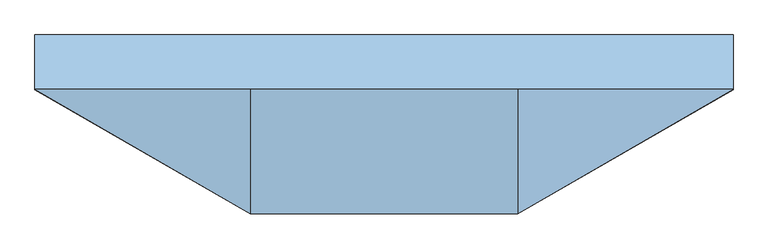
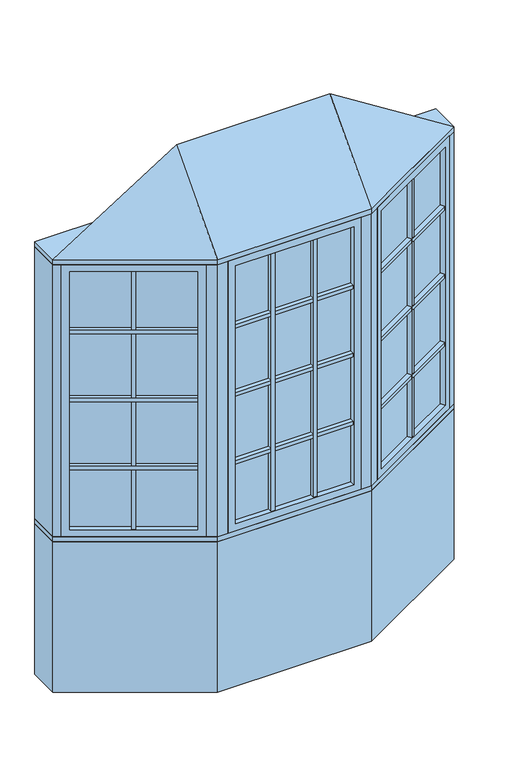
"""IFC4 building model written with IfcOpenShell, lengths in millimetres: window geometry, Pollard_Windows_Tudor Casement Bows and Bays : AML-BAY 30 AFR0614-08-600_GC."""

from ifc_helpers import new_model, si_unit, frame, origin, origin_with_axes, place, context, project, spatial, polyline, outline, extrude, faceted_brep, source, transform, mapped, element, save


def window_1a3f96cc(model_context):
    return source(origin(), model_context, "Body", "SolidModel", [
        extrude(outline(polyline([(446.881999, -376.6297343), (435.881999, -357.5771754), (902.1135794, -88.3982469), (913.1135794, -107.4508058), (446.881999, -376.6297343)])), frame((0.0, 0.0, 1490.998), z_axis=(0.0, 0.0, 1.0), x_axis=(1.0, 0.0, 0.0)), (0.0, 0.0, 1.0), 18.0),
        extrude(outline(polyline([(433.341999, -353.1777664), (422.341999, -334.1252075), (888.5735794, -64.946279), (899.5735794, -83.9988379), (433.341999, -353.1777664)])), frame((0.0, 0.0, 1490.998), z_axis=(0.0, 0.0, 1.0), x_axis=(1.0, 0.0, 0.0)), (0.0, 0.0, 1.0), 18.0),
        extrude(outline(polyline([(446.881999, -376.6297343), (435.881999, -357.5771754), (902.1135794, -88.3982469), (913.1135794, -107.4508058), (446.881999, -376.6297343)])), frame((0.0, 0.0, 1140.998), z_axis=(0.0, 0.0, 1.0), x_axis=(1.0, 0.0, 0.0)), (0.0, 0.0, 1.0), 18.0),
        extrude(outline(polyline([(433.341999, -353.1777664), (422.341999, -334.1252075), (888.5735794, -64.946279), (899.5735794, -83.9988379), (433.341999, -353.1777664)])), frame((0.0, 0.0, 1140.998), z_axis=(0.0, 0.0, 1.0), x_axis=(1.0, 0.0, 0.0)), (0.0, 0.0, 1.0), 18.0),
        extrude(outline(polyline([(446.881999, -376.6297343), (435.881999, -357.5771754), (902.1135794, -88.3982469), (913.1135794, -107.4508058), (446.881999, -376.6297343)])), frame((0.0, 0.0, 1490.998), z_axis=(0.0, 0.0, 1.0), x_axis=(1.0, 0.0, 0.0)), (0.0, 0.0, 1.0), 18.0),
        extrude(outline(polyline([(433.341999, -353.1777664), (422.341999, -334.1252075), (888.5735794, -64.946279), (899.5735794, -83.9988379), (433.341999, -353.1777664)])), frame((0.0, 0.0, 1490.998), z_axis=(0.0, 0.0, 1.0), x_axis=(1.0, 0.0, 0.0)), (0.0, 0.0, 1.0), 18.0),
        extrude(outline(polyline([(446.881999, -376.6297343), (435.881999, -357.5771754), (902.1135794, -88.3982469), (913.1135794, -107.4508058), (446.881999, -376.6297343)])), frame((0.0, 0.0, 1490.998), z_axis=(0.0, 0.0, 1.0), x_axis=(1.0, 0.0, 0.0)), (0.0, 0.0, 1.0), 18.0),
        extrude(outline(polyline([(433.341999, -353.1777664), (422.341999, -334.1252075), (888.5735794, -64.946279), (899.5735794, -83.9988379), (433.341999, -353.1777664)])), frame((0.0, 0.0, 1490.998), z_axis=(0.0, 0.0, 1.0), x_axis=(1.0, 0.0, 0.0)), (0.0, 0.0, 1.0), 18.0),
        extrude(outline(polyline([(446.881999, -376.6297343), (435.881999, -357.5771754), (902.1135794, -88.3982469), (913.1135794, -107.4508058), (446.881999, -376.6297343)])), frame((0.0, 0.0, 1840.998), z_axis=(0.0, 0.0, 1.0), x_axis=(1.0, 0.0, 0.0)), (0.0, 0.0, 1.0), 18.0),
        extrude(outline(polyline([(433.341999, -353.1777664), (422.341999, -334.1252075), (888.5735794, -64.946279), (899.5735794, -83.9988379), (433.341999, -353.1777664)])), frame((0.0, 0.0, 1840.998), z_axis=(0.0, 0.0, 1.0), x_axis=(1.0, 0.0, 0.0)), (0.0, 0.0, 1.0), 18.0),
        extrude(outline(polyline([(676.7920178, -218.4877112), (687.7920178, -237.5402701), (672.2035606, -246.5402701), (661.2035606, -227.4877112), (676.7920178, -218.4877112)])), frame((0.0, 0.0, 835.8628), z_axis=(0.0, 0.0, 1.0), x_axis=(1.0, 0.0, 0.0)), (0.0, 0.0, 1.0), 1328.2704),
        extrude(outline(polyline([(674.2520178, -214.0883021), (658.6635606, -223.0883021), (647.6635606, -204.0357432), (663.2520178, -195.0357432), (674.2520178, -214.0883021)])), frame((0.0, 0.0, 835.8628), z_axis=(0.0, 0.0, 1.0), x_axis=(1.0, 0.0, 0.0)), (0.0, 0.0, 1.0), 1328.2704),
        extrude(outline(polyline([(913.112102, -82.0482469), (424.8834764, -363.9271754), (422.3434764, -359.5277664), (910.572102, -77.6488379), (913.112102, -82.0482469)])), frame((0.0, 0.0, 823.1628), z_axis=(0.0, 0.0, 1.0), x_axis=(1.0, 0.0, 0.0)), (0.0, 0.0, 1.0), 1353.6704),
        faceted_brep([(902.1135794, -88.3982469, 835.8628), (914.8135794, -110.3952922, 835.8628), (914.8135794, -110.3952922, 2164.1332), (902.1135794, -88.3982469, 2164.1332), (910.572102, -77.6488379, 823.1628), (913.112102, -82.0482469, 823.1628), (913.112102, -82.0482469, 2176.8332), (910.572102, -77.6488379, 2176.8332), (886.8735794, -62.0017926, 835.8628), (899.5735794, -83.9988379, 835.8628), (899.5735794, -83.9988379, 2164.1332), (886.8735794, -62.0017926, 2164.1332), (945.8734073, -92.4628922, 799.998), (917.9334073, -44.0693926, 799.998), (917.9334073, -44.0693926, 2199.998), (945.8734073, -92.4628922, 2199.998), (448.581999, -379.5742207, 2164.1332), (435.881999, -357.5771754, 2164.1332), (424.8834764, -363.9271754, 2176.8332), (422.3434764, -359.5277664, 2176.8332), (433.341999, -353.1777664, 2164.1332), (420.641999, -331.1807211, 2164.1332), (389.5821711, -349.1131211, 2199.998), (417.5221711, -397.5066207, 2199.998), (448.581999, -379.5742207, 835.8628), (435.881999, -357.5771754, 835.8628), (424.8834764, -363.9271754, 823.1628), (422.3434764, -359.5277664, 823.1628), (433.341999, -353.1777664, 835.8628), (420.641999, -331.1807211, 835.8628), (389.5821711, -349.1131211, 799.998), (417.5221711, -397.5066207, 799.998)], [[[0, 1, 2, 3]], [[4, 5, 6, 7]], [[8, 9, 10, 11]], [[12, 13, 14, 15]], [[3, 2, 16, 17]], [[7, 6, 18, 19]], [[11, 10, 20, 21]], [[15, 14, 22, 23]], [[17, 16, 24, 25]], [[19, 18, 26, 27]], [[21, 20, 28, 29]], [[23, 22, 30, 31]], [[25, 24, 1, 0]], [[5, 26, 18, 6], [3, 17, 25, 0]], [[27, 26, 5, 4]], [[7, 19, 27, 4], [9, 28, 20, 10]], [[29, 28, 9, 8]], [[13, 30, 22, 14], [11, 21, 29, 8]], [[31, 30, 13, 12]], [[15, 23, 31, 12], [1, 24, 16, 2]]]),
        extrude(outline(polyline([(112.352167, -397.1066207), (112.352167, -419.1066207), (94.352167, -419.1066207), (94.352167, -397.1066207), (112.352167, -397.1066207)])), frame((0.0, 0.0, 835.8628), z_axis=(0.0, 0.0, 1.0), x_axis=(1.0, 0.0, 0.0)), (0.0, 0.0, 1.0), 1328.2704),
        extrude(outline(polyline([(112.352167, -392.0266207), (94.352167, -392.0266207), (94.352167, -370.0266207), (112.352167, -370.0266207), (112.352167, -392.0266207)])), frame((0.0, 0.0, 835.8628), z_axis=(0.0, 0.0, 1.0), x_axis=(1.0, 0.0, 0.0)), (0.0, 0.0, 1.0), 1328.2704),
        extrude(outline(polyline([(-94.352167, -397.1066207), (-94.352167, -419.1066207), (-112.352167, -419.1066207), (-112.352167, -397.1066207), (-94.352167, -397.1066207)])), frame((0.0, 0.0, 835.8628), z_axis=(0.0, 0.0, 1.0), x_axis=(1.0, 0.0, 0.0)), (0.0, 0.0, 1.0), 1328.2704),
        extrude(outline(polyline([(-94.352167, -392.0266207), (-112.352167, -392.0266207), (-112.352167, -370.0266207), (-94.352167, -370.0266207), (-94.352167, -392.0266207)])), frame((0.0, 0.0, 835.8628), z_axis=(0.0, 0.0, 1.0), x_axis=(1.0, 0.0, 0.0)), (0.0, 0.0, 1.0), 1328.2704),
        extrude(outline(polyline([(-288.3561009, -419.1066207), (-288.3561009, -397.1066207), (288.3561009, -397.1066207), (288.3561009, -419.1066207), (-288.3561009, -419.1066207)])), frame((0.0, 0.0, 1140.998), z_axis=(0.0, 0.0, 1.0), x_axis=(1.0, 0.0, 0.0)), (0.0, 0.0, 1.0), 18.0),
        extrude(outline(polyline([(-288.3561009, -392.0266207), (-288.3561009, -370.0266207), (288.3561009, -370.0266207), (288.3561009, -392.0266207), (-288.3561009, -392.0266207)])), frame((0.0, 0.0, 1140.998), z_axis=(0.0, 0.0, 1.0), x_axis=(1.0, 0.0, 0.0)), (0.0, 0.0, 1.0), 18.0),
        extrude(outline(polyline([(-288.3561009, -419.1066207), (-288.3561009, -397.1066207), (288.3561009, -397.1066207), (288.3561009, -419.1066207), (-288.3561009, -419.1066207)])), frame((0.0, 0.0, 1490.998), z_axis=(0.0, 0.0, 1.0), x_axis=(1.0, 0.0, 0.0)), (0.0, 0.0, 1.0), 18.0),
        extrude(outline(polyline([(-288.3561009, -392.0266207), (-288.3561009, -370.0266207), (288.3561009, -370.0266207), (288.3561009, -392.0266207), (-288.3561009, -392.0266207)])), frame((0.0, 0.0, 1490.998), z_axis=(0.0, 0.0, 1.0), x_axis=(1.0, 0.0, 0.0)), (0.0, 0.0, 1.0), 18.0),
        extrude(outline(polyline([(-288.3561009, -419.1066207), (-288.3561009, -397.1066207), (288.3561009, -397.1066207), (288.3561009, -419.1066207), (-288.3561009, -419.1066207)])), frame((0.0, 0.0, 1490.998), z_axis=(0.0, 0.0, 1.0), x_axis=(1.0, 0.0, 0.0)), (0.0, 0.0, 1.0), 18.0),
        extrude(outline(polyline([(-288.3561009, -392.0266207), (-288.3561009, -370.0266207), (288.3561009, -370.0266207), (288.3561009, -392.0266207), (-288.3561009, -392.0266207)])), frame((0.0, 0.0, 1490.998), z_axis=(0.0, 0.0, 1.0), x_axis=(1.0, 0.0, 0.0)), (0.0, 0.0, 1.0), 18.0),
        extrude(outline(polyline([(-288.3561009, -419.1066207), (-288.3561009, -397.1066207), (288.3561009, -397.1066207), (288.3561009, -419.1066207), (-288.3561009, -419.1066207)])), frame((0.0, 0.0, 1490.998), z_axis=(0.0, 0.0, 1.0), x_axis=(1.0, 0.0, 0.0)), (0.0, 0.0, 1.0), 18.0),
        extrude(outline(polyline([(-288.3561009, -392.0266207), (-288.3561009, -370.0266207), (288.3561009, -370.0266207), (288.3561009, -392.0266207), (-288.3561009, -392.0266207)])), frame((0.0, 0.0, 1490.998), z_axis=(0.0, 0.0, 1.0), x_axis=(1.0, 0.0, 0.0)), (0.0, 0.0, 1.0), 18.0),
        extrude(outline(polyline([(-913.1135794, -107.4508058), (-902.1135794, -88.3982469), (-435.881999, -357.5771754), (-446.881999, -376.6297343), (-913.1135794, -107.4508058)])), frame((0.0, 0.0, 1140.998), z_axis=(0.0, 0.0, 1.0), x_axis=(1.0, 0.0, 0.0)), (0.0, 0.0, 1.0), 18.0),
        extrude(outline(polyline([(-899.5735794, -83.9988379), (-888.5735794, -64.946279), (-422.341999, -334.1252075), (-433.341999, -353.1777664), (-899.5735794, -83.9988379)])), frame((0.0, 0.0, 1140.998), z_axis=(0.0, 0.0, 1.0), x_axis=(1.0, 0.0, 0.0)), (0.0, 0.0, 1.0), 18.0),
        extrude(outline(polyline([(-913.1135794, -107.4508058), (-902.1135794, -88.3982469), (-435.881999, -357.5771754), (-446.881999, -376.6297343), (-913.1135794, -107.4508058)])), frame((0.0, 0.0, 1490.998), z_axis=(0.0, 0.0, 1.0), x_axis=(1.0, 0.0, 0.0)), (0.0, 0.0, 1.0), 18.0),
        extrude(outline(polyline([(-899.5735794, -83.9988379), (-888.5735794, -64.946279), (-422.341999, -334.1252075), (-433.341999, -353.1777664), (-899.5735794, -83.9988379)])), frame((0.0, 0.0, 1490.998), z_axis=(0.0, 0.0, 1.0), x_axis=(1.0, 0.0, 0.0)), (0.0, 0.0, 1.0), 18.0),
        extrude(outline(polyline([(-913.1135794, -107.4508058), (-902.1135794, -88.3982469), (-435.881999, -357.5771754), (-446.881999, -376.6297343), (-913.1135794, -107.4508058)])), frame((0.0, 0.0, 1490.998), z_axis=(0.0, 0.0, 1.0), x_axis=(1.0, 0.0, 0.0)), (0.0, 0.0, 1.0), 18.0),
        extrude(outline(polyline([(-899.5735794, -83.9988379), (-888.5735794, -64.946279), (-422.341999, -334.1252075), (-433.341999, -353.1777664), (-899.5735794, -83.9988379)])), frame((0.0, 0.0, 1490.998), z_axis=(0.0, 0.0, 1.0), x_axis=(1.0, 0.0, 0.0)), (0.0, 0.0, 1.0), 18.0),
        extrude(outline(polyline([(-913.1135794, -107.4508058), (-902.1135794, -88.3982469), (-435.881999, -357.5771754), (-446.881999, -376.6297343), (-913.1135794, -107.4508058)])), frame((0.0, 0.0, 1490.998), z_axis=(0.0, 0.0, 1.0), x_axis=(1.0, 0.0, 0.0)), (0.0, 0.0, 1.0), 18.0),
        extrude(outline(polyline([(-899.5735794, -83.9988379), (-888.5735794, -64.946279), (-422.341999, -334.1252075), (-433.341999, -353.1777664), (-899.5735794, -83.9988379)])), frame((0.0, 0.0, 1490.998), z_axis=(0.0, 0.0, 1.0), x_axis=(1.0, 0.0, 0.0)), (0.0, 0.0, 1.0), 18.0),
        extrude(outline(polyline([(-913.1135794, -107.4508058), (-902.1135794, -88.3982469), (-435.881999, -357.5771754), (-446.881999, -376.6297343), (-913.1135794, -107.4508058)])), frame((0.0, 0.0, 1840.998), z_axis=(0.0, 0.0, 1.0), x_axis=(1.0, 0.0, 0.0)), (0.0, 0.0, 1.0), 18.0),
        extrude(outline(polyline([(-899.5735794, -83.9988379), (-888.5735794, -64.946279), (-422.341999, -334.1252075), (-433.341999, -353.1777664), (-899.5735794, -83.9988379)])), frame((0.0, 0.0, 1840.998), z_axis=(0.0, 0.0, 1.0), x_axis=(1.0, 0.0, 0.0)), (0.0, 0.0, 1.0), 18.0),
        extrude(outline(polyline([(-288.3561009, -419.1066207), (-288.3561009, -397.1066207), (288.3561009, -397.1066207), (288.3561009, -419.1066207), (-288.3561009, -419.1066207)])), frame((0.0, 0.0, 1840.998), z_axis=(0.0, 0.0, 1.0), x_axis=(1.0, 0.0, 0.0)), (0.0, 0.0, 1.0), 18.0),
        extrude(outline(polyline([(-288.3561009, -392.0266207), (-288.3561009, -370.0266207), (288.3561009, -370.0266207), (288.3561009, -392.0266207), (-288.3561009, -392.0266207)])), frame((0.0, 0.0, 1840.998), z_axis=(0.0, 0.0, 1.0), x_axis=(1.0, 0.0, 0.0)), (0.0, 0.0, 1.0), 18.0),
        extrude(outline(polyline([(-661.2035606, -227.4877112), (-672.2035606, -246.5402701), (-687.7920178, -237.5402701), (-676.7920178, -218.4877112), (-661.2035606, -227.4877112)])), frame((0.0, 0.0, 835.8628), z_axis=(0.0, 0.0, 1.0), x_axis=(1.0, 0.0, 0.0)), (0.0, 0.0, 1.0), 1328.2704),
        extrude(outline(polyline([(-658.6635606, -223.0883021), (-674.2520178, -214.0883021), (-663.2520178, -195.0357432), (-647.6635606, -204.0357432), (-658.6635606, -223.0883021)])), frame((0.0, 0.0, 835.8628), z_axis=(0.0, 0.0, 1.0), x_axis=(1.0, 0.0, 0.0)), (0.0, 0.0, 1.0), 1328.2704),
        extrude(outline(polyline([(-424.8834764, -363.9271754), (-913.112102, -82.0482469), (-910.572102, -77.6488379), (-422.3434764, -359.5277664), (-424.8834764, -363.9271754)])), frame((0.0, 0.0, 823.1628), z_axis=(0.0, 0.0, 1.0), x_axis=(1.0, 0.0, 0.0)), (0.0, 0.0, 1.0), 1353.6704),
        faceted_brep([(-433.341999, -353.1777664, 2164.1332), (-420.641999, -331.1807211, 2164.1332), (-420.641999, -331.1807211, 835.8628), (-433.341999, -353.1777664, 835.8628), (-424.8834764, -363.9271754, 2176.8332), (-422.3434764, -359.5277664, 2176.8332), (-422.3434764, -359.5277664, 823.1628), (-424.8834764, -363.9271754, 823.1628), (-448.581999, -379.5742207, 2164.1332), (-435.881999, -357.5771754, 2164.1332), (-435.881999, -357.5771754, 835.8628), (-448.581999, -379.5742207, 835.8628), (-389.5821711, -349.1131211, 2199.998), (-417.5221711, -397.5066207, 2199.998), (-417.5221711, -397.5066207, 799.998), (-389.5821711, -349.1131211, 799.998), (-886.8735794, -62.0017926, 835.8628), (-899.5735794, -83.9988379, 835.8628), (-910.572102, -77.6488379, 823.1628), (-913.112102, -82.0482469, 823.1628), (-902.1135794, -88.3982469, 835.8628), (-914.8135794, -110.3952922, 835.8628), (-945.8734073, -92.4628922, 799.998), (-917.9334073, -44.0693926, 799.998), (-886.8735794, -62.0017926, 2164.1332), (-899.5735794, -83.9988379, 2164.1332), (-910.572102, -77.6488379, 2176.8332), (-913.112102, -82.0482469, 2176.8332), (-902.1135794, -88.3982469, 2164.1332), (-914.8135794, -110.3952922, 2164.1332), (-945.8734073, -92.4628922, 2199.998), (-917.9334073, -44.0693926, 2199.998)], [[[0, 1, 2, 3]], [[4, 5, 6, 7]], [[8, 9, 10, 11]], [[12, 13, 14, 15]], [[3, 2, 16, 17]], [[7, 6, 18, 19]], [[11, 10, 20, 21]], [[15, 14, 22, 23]], [[17, 16, 24, 25]], [[19, 18, 26, 27]], [[21, 20, 28, 29]], [[23, 22, 30, 31]], [[15, 23, 31, 12], [1, 24, 16, 2]], [[25, 24, 1, 0]], [[5, 26, 18, 6], [3, 17, 25, 0]], [[27, 26, 5, 4]], [[7, 19, 27, 4], [9, 28, 20, 10]], [[29, 28, 9, 8]], [[13, 30, 22, 14], [11, 21, 29, 8]], [[31, 30, 13, 12]]]),
        extrude(outline(polyline([(301.0561009, -397.1066207), (-301.0561009, -397.1066207), (-301.0561009, -392.0266207), (301.0561009, -392.0266207), (301.0561009, -397.1066207)])), frame((0.0, 0.0, 823.1628), z_axis=(0.0, 0.0, 1.0), x_axis=(1.0, 0.0, 0.0)), (0.0, 0.0, 1.0), 1353.6704),
        faceted_brep([(288.3561009, -397.1066207, 835.8628), (288.3561009, -422.5066207, 835.8628), (288.3561009, -422.5066207, 2164.1332), (288.3561009, -397.1066207, 2164.1332), (301.0561009, -392.0266207, 823.1628), (301.0561009, -397.1066207, 823.1628), (301.0561009, -397.1066207, 2176.8332), (301.0561009, -392.0266207, 2176.8332), (288.3561009, -366.6266207, 835.8628), (288.3561009, -392.0266207, 835.8628), (288.3561009, -392.0266207, 2164.1332), (288.3561009, -366.6266207, 2164.1332), (324.2209009, -422.5066207, 799.998), (324.2209009, -366.6266207, 799.998), (324.2209009, -366.6266207, 2199.998), (324.2209009, -422.5066207, 2199.998), (-288.3561009, -422.5066207, 2164.1332), (-288.3561009, -397.1066207, 2164.1332), (-301.0561009, -397.1066207, 2176.8332), (-301.0561009, -392.0266207, 2176.8332), (-288.3561009, -392.0266207, 2164.1332), (-288.3561009, -366.6266207, 2164.1332), (-324.2209009, -366.6266207, 2199.998), (-324.2209009, -422.5066207, 2199.998), (-288.3561009, -422.5066207, 835.8628), (-288.3561009, -397.1066207, 835.8628), (-301.0561009, -397.1066207, 823.1628), (-301.0561009, -392.0266207, 823.1628), (-288.3561009, -392.0266207, 835.8628), (-288.3561009, -366.6266207, 835.8628), (-324.2209009, -366.6266207, 799.998), (-324.2209009, -422.5066207, 799.998)], [[[0, 1, 2, 3]], [[4, 5, 6, 7]], [[8, 9, 10, 11]], [[12, 13, 14, 15]], [[3, 2, 16, 17]], [[7, 6, 18, 19]], [[11, 10, 20, 21]], [[15, 14, 22, 23]], [[17, 16, 24, 25]], [[19, 18, 26, 27]], [[21, 20, 28, 29]], [[23, 22, 30, 31]], [[15, 23, 31, 12], [1, 24, 16, 2]], [[25, 24, 1, 0]], [[5, 26, 18, 6], [3, 17, 25, 0]], [[27, 26, 5, 4]], [[7, 19, 27, 4], [9, 28, 20, 10]], [[29, 28, 9, 8]], [[13, 30, 22, 14], [11, 21, 29, 8]], [[31, 30, 13, 12]]]),
        faceted_brep([(976.5, -74.7806207, 2225.398), (374.2209009, -422.5066207, 2225.398), (-374.2209009, -422.5066207, 2225.398), (-976.5, -74.7806207, 2225.398), (-374.2209009, -74.7806207, 2606.398), (374.2209009, -74.7806207, 2606.398)], [[[0, 1, 2, 3]], [[3, 2, 4]], [[2, 1, 5, 4]], [[1, 0, 5]], [[0, 3, 4, 5]]]),
        extrude(outline(polyline([(-976.5, 77.6193793), (976.5, 77.6193793), (976.5, -74.7806207), (374.2209009, -422.5066207), (-374.2209009, -422.5066207), (-976.5, -74.7806207), (-976.5, 77.6193793)])), frame((0.0, 0.0, 2199.998), z_axis=(0.0, 0.0, 1.0), x_axis=(1.0, 0.0, 0.0)), (0.0, 0.0, 1.0), 25.4),
        extrude(outline(polyline([(-976.5, -74.7806207), (-976.5, 77.6193793), (-935.6645431, 77.6193793), (-935.6645431, -74.7806207), (-945.8734073, -92.4628922), (-976.5, -74.7806207)])), frame((0.0, 0.0, 799.998), z_axis=(0.0, 0.0, 1.0), x_axis=(1.0, 0.0, 0.0)), (0.0, 0.0, 1.0), 1400.0),
        extrude(outline(polyline([(976.5, 77.6193793), (976.5, -74.7806207), (945.8734073, -92.4628922), (935.6645431, -74.7806207), (935.6645431, 77.6193793), (976.5, 77.6193793)])), frame((0.0, 0.0, 799.998), z_axis=(0.0, 0.0, 1.0), x_axis=(1.0, 0.0, 0.0)), (0.0, 0.0, 1.0), 1400.0),
        extrude(outline(polyline([(374.2209009, -422.5066207), (324.2209009, -422.5066207), (324.2209009, -372.5066207), (360.8234413, -372.5066207), (392.5221711, -354.2053505), (417.5221711, -397.5066207), (374.2209009, -422.5066207)])), frame((0.0, 0.0, 799.998), z_axis=(0.0, 0.0, 1.0), x_axis=(1.0, 0.0, 0.0)), (0.0, 0.0, 1.0), 1400.0),
        extrude(outline(polyline([(-374.2209009, -422.5066207), (-417.5221711, -397.5066207), (-392.5221711, -354.2053505), (-360.8234413, -372.5066207), (-324.2209009, -372.5066207), (-324.2209009, -422.5066207), (-374.2209009, -422.5066207)])), frame((0.0, 0.0, 799.998), z_axis=(0.0, 0.0, 1.0), x_axis=(1.0, 0.0, 0.0)), (0.0, 0.0, 1.0), 1400.0),
        extrude(outline(polyline([(-374.2209009, -422.5066207), (-976.5, -74.7806207), (-976.5, 77.6193793), (-935.6645431, 77.6193793), (-333.385444, -270.1066207), (333.385444, -270.1066207), (935.6645431, 77.6193793), (976.5, 77.6193793), (976.5, -74.7806207), (374.2209009, -422.5066207), (-374.2209009, -422.5066207)])), frame((0.0, 0.0, 774.598), z_axis=(0.0, 0.0, 1.0), x_axis=(1.0, 0.0, 0.0)), (0.0, 0.0, 1.0), 25.4),
        extrude(outline(polyline([(-976.5, -74.7806207), (-976.5, 77.6193793), (-935.6645431, 77.6193793), (-333.385444, -270.1066207), (333.385444, -270.1066207), (935.6645431, 77.6193793), (976.5, 77.6193793), (976.5, -74.7806207), (374.2209009, -422.5066207), (-374.2209009, -422.5066207), (-976.5, -74.7806207)])), origin_with_axes(), (0.0, 0.0, 1.0), 774.598),
    ])


if __name__ == "__main__":
    model = new_model("IFC4")
    model_context = context("Model", 3, world=origin())
    ifc_project = project(units=[si_unit("LENGTHUNIT", "METRE", prefix="MILLI")], contexts=[model_context])
    site = spatial("IfcSite", under=ifc_project)
    building = spatial("IfcBuilding", under=site)
    placement = place(None, origin())
    window_shape = window_1a3f96cc(model_context)
    element("IfcWindow", 1, ObjectType="Pollard_Windows_Tudor Casement Bows and Bays : AML-BAY 30 AFR0614-08-600_GC", at=placement, inside=building, context=model_context, shape_type="MappedRepresentation", body=[
        mapped(window_shape, transform((0.0, 0.0, 0.0), x_axis=(1.0, 0.0, 0.0), y_axis=(0.0, 1.0, 0.0), z_axis=(0.0, 0.0, 1.0))),
    ])
    save(model, "model.ifc")
